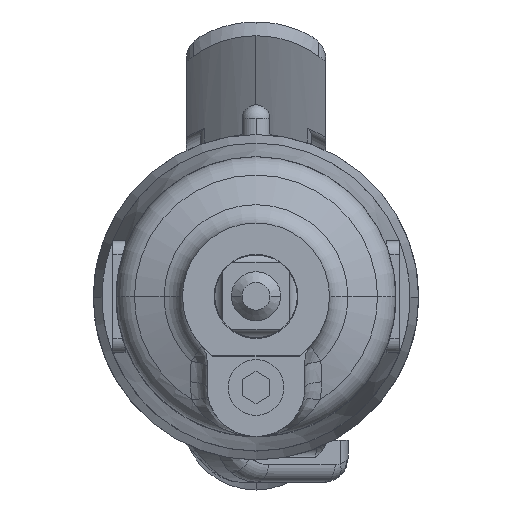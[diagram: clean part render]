
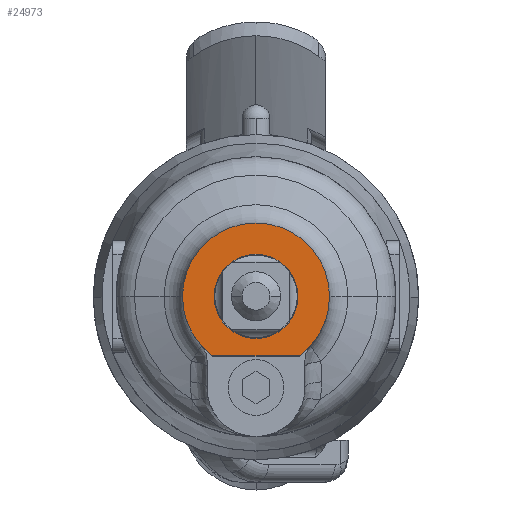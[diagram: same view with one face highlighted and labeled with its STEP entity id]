
A CAD part, top view. The second image highlights one B-rep face of the part: STEP entity #24973.
In plain terms, the highlighted planar face has unit normal (0, 0, 1).
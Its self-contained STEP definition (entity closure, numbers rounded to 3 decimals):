
#1900 = VERTEX_POINT ( 'NONE', #30030 ) ;
#24851 = VERTEX_POINT ( 'NONE', #30348 ) ;
#24852 = EDGE_CURVE ( 'NONE', #24851, #24888, #30346, .T. ) ;
#24859 = VERTEX_POINT ( 'NONE', #30336 ) ;
#24865 = EDGE_CURVE ( 'NONE', #24859, #1900, #30328, .T. ) ;
#24869 = VERTEX_POINT ( 'NONE', #30371 ) ;
#24870 = EDGE_CURVE ( 'NONE', #24869, #24851, #30370, .T. ) ;
#24878 = EDGE_LOOP ( 'NONE', ( #24923, #24920 ) ) ;
#24879 = ORIENTED_EDGE ( 'NONE', *, *, #24881, .T. ) ;
#24880 = EDGE_CURVE ( 'NONE', #24869, #24884, #30408, .T. ) ;
#24881 = EDGE_CURVE ( 'NONE', #24888, #24884, #30404, .T. ) ;
#24882 = ORIENTED_EDGE ( 'NONE', *, *, #24880, .F. ) ;
#24883 = ORIENTED_EDGE ( 'NONE', *, *, #24852, .T. ) ;
#24884 = VERTEX_POINT ( 'NONE', #30399 ) ;
#24885 = ORIENTED_EDGE ( 'NONE', *, *, #24870, .T. ) ;
#24886 = EDGE_LOOP ( 'NONE', ( #24885, #24883, #24879, #24882 ) ) ;
#24888 = VERTEX_POINT ( 'NONE', #30398 ) ;
#24919 = EDGE_CURVE ( 'NONE', #1900, #24859, #30464, .T. ) ;
#24920 = ORIENTED_EDGE ( 'NONE', *, *, #24865, .F. ) ;
#24923 = ORIENTED_EDGE ( 'NONE', *, *, #24919, .F. ) ;
#24973 = ADVANCED_FACE ( 'NONE', ( #30573, #30572 ), #30571, .F. ) ;
#30030 = CARTESIAN_POINT ( 'NONE',  ( 6., 0., 0. ) ) ;
#30328 = CIRCLE ( 'NONE', #30379, 6. ) ;
#30336 = CARTESIAN_POINT ( 'NONE',  ( -6., 0., 0. ) ) ;
#30342 = DIRECTION ( 'NONE',  ( 1., 0., 0. ) ) ;
#30343 = DIRECTION ( 'NONE',  ( 0., 0., 1. ) ) ;
#30344 = CARTESIAN_POINT ( 'NONE',  ( 0., 0., 0. ) ) ;
#30345 = AXIS2_PLACEMENT_3D ( 'NONE', #30344, #30343, #30342 ) ;
#30346 = CIRCLE ( 'NONE', #30345, 10.5 ) ;
#30348 = CARTESIAN_POINT ( 'NONE',  ( 10.5, 0., 0. ) ) ;
#30366 = DIRECTION ( 'NONE',  ( 1., 0., 0. ) ) ;
#30367 = DIRECTION ( 'NONE',  ( 0., 0., 1. ) ) ;
#30368 = CARTESIAN_POINT ( 'NONE',  ( 0., 0., 0. ) ) ;
#30369 = AXIS2_PLACEMENT_3D ( 'NONE', #30368, #30367, #30366 ) ;
#30370 = CIRCLE ( 'NONE', #30369, 10.5 ) ;
#30371 = CARTESIAN_POINT ( 'NONE',  ( 6.164, -8.5, 0. ) ) ;
#30376 = DIRECTION ( 'NONE',  ( 1., 0., 0. ) ) ;
#30377 = DIRECTION ( 'NONE',  ( 0., 0., 1. ) ) ;
#30378 = CARTESIAN_POINT ( 'NONE',  ( 0., 0., 0. ) ) ;
#30379 = AXIS2_PLACEMENT_3D ( 'NONE', #30378, #30377, #30376 ) ;
#30398 = CARTESIAN_POINT ( 'NONE',  ( -10.5, 0., 0. ) ) ;
#30399 = CARTESIAN_POINT ( 'NONE',  ( -6.164, -8.5, 0. ) ) ;
#30400 = DIRECTION ( 'NONE',  ( 1., 0., 0. ) ) ;
#30401 = DIRECTION ( 'NONE',  ( 0., 0., 1. ) ) ;
#30402 = CARTESIAN_POINT ( 'NONE',  ( 0., 0., 0. ) ) ;
#30403 = AXIS2_PLACEMENT_3D ( 'NONE', #30402, #30401, #30400 ) ;
#30404 = CIRCLE ( 'NONE', #30403, 10.5 ) ;
#30405 = DIRECTION ( 'NONE',  ( -1., 0., 0. ) ) ;
#30406 = VECTOR ( 'NONE', #30405, 1000. ) ;
#30407 = CARTESIAN_POINT ( 'NONE',  ( -6.164, -8.5, 0. ) ) ;
#30408 = LINE ( 'NONE', #30407, #30406 ) ;
#30456 = DIRECTION ( 'NONE',  ( 1., 0., 0. ) ) ;
#30457 = DIRECTION ( 'NONE',  ( 0., 0., 1. ) ) ;
#30458 = CARTESIAN_POINT ( 'NONE',  ( 0., 0., 0. ) ) ;
#30459 = AXIS2_PLACEMENT_3D ( 'NONE', #30458, #30457, #30456 ) ;
#30464 = CIRCLE ( 'NONE', #30459, 6. ) ;
#30569 = CARTESIAN_POINT ( 'NONE',  ( 0., 0., 0. ) ) ;
#30570 = AXIS2_PLACEMENT_3D ( 'NONE', #30569, #30632, #30630 ) ;
#30571 = PLANE ( 'NONE',  #30570 ) ;
#30572 = FACE_BOUND ( 'NONE', #24878, .T. ) ;
#30573 = FACE_OUTER_BOUND ( 'NONE', #24886, .T. ) ;
#30630 = DIRECTION ( 'NONE',  ( -1., 0., 0. ) ) ;
#30632 = DIRECTION ( 'NONE',  ( 0., 0., -1. ) ) ;
